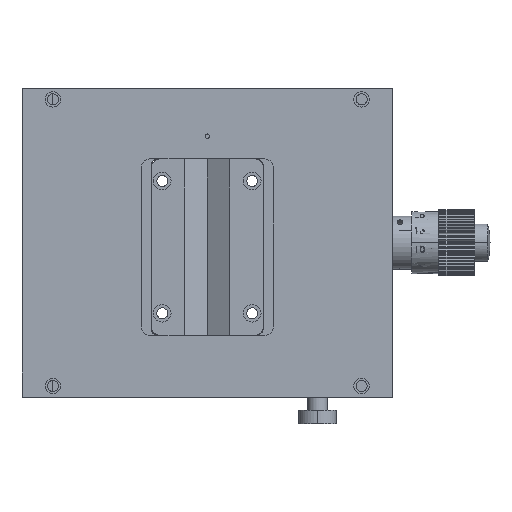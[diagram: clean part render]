
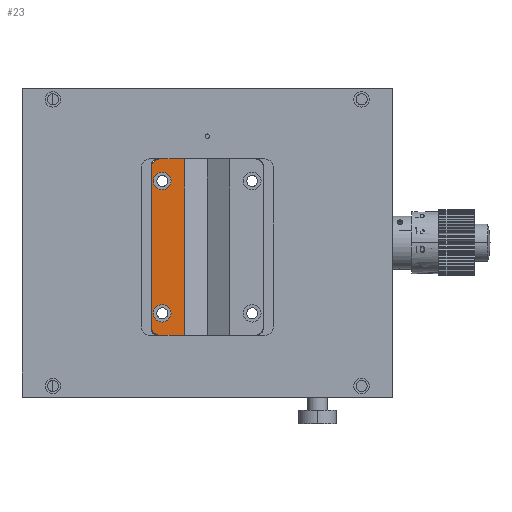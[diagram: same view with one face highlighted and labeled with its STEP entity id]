
A CAD part, top view. The second image highlights one B-rep face of the part: STEP entity #23.
In plain terms, the highlighted planar face has unit normal (0, 0, -1).
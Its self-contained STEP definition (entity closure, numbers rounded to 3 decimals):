
#23 = ADVANCED_FACE ( 'NONE', ( #5520, #79, #16394 ), #14322, .F. ) ;
#79 = FACE_BOUND ( 'NONE', #4531, .T. ) ;
#235 = VERTEX_POINT ( 'NONE', #17312 ) ;
#386 = VERTEX_POINT ( 'NONE', #2026 ) ;
#431 = CARTESIAN_POINT ( 'NONE',  ( -35.736, -3.566, 4.897 ) ) ;
#485 = CARTESIAN_POINT ( 'NONE',  ( -35.736, -21.566, 4.897 ) ) ;
#643 = VERTEX_POINT ( 'NONE', #13674 ) ;
#671 = EDGE_LOOP ( 'NONE', ( #19587, #18327, #16349, #6704, #4236, #12662 ) ) ;
#809 = CARTESIAN_POINT ( 'NONE',  ( -28.146, -3.566, 4.897 ) ) ;
#866 = EDGE_CURVE ( 'NONE', #12997, #22259, #21504, .T. ) ;
#912 = DIRECTION ( 'NONE',  ( 0., 0., 1. ) ) ;
#1293 = B_SPLINE_CURVE_WITH_KNOTS ( 'NONE', 3,
 ( #9673, #11417, #2749, #14896, #20178, #6223, #18364, #9826, #4830, #8586 ),
 .UNSPECIFIED., .F., .F.,
 ( 4, 2, 2, 2, 4 ),
 ( 0., 0.25, 0.5, 0.75, 1. ),
 .UNSPECIFIED. ) ;
#1451 = VERTEX_POINT ( 'NONE', #7422 ) ;
#1735 = DIRECTION ( 'NONE',  ( 0., 0., -1. ) ) ;
#1791 = VERTEX_POINT ( 'NONE', #1917 ) ;
#1895 = DIRECTION ( 'NONE',  ( 0., -1., 0. ) ) ;
#1917 = CARTESIAN_POINT ( 'NONE',  ( -33.736, -23.566, 4.897 ) ) ;
#2026 = CARTESIAN_POINT ( 'NONE',  ( -35.236, -18.566, 4.897 ) ) ;
#2300 = EDGE_CURVE ( 'NONE', #15637, #643, #16280, .T. ) ;
#2749 = CARTESIAN_POINT ( 'NONE',  ( -34.258, 16.382, 4.897 ) ) ;
#2790 = ORIENTED_EDGE ( 'NONE', *, *, #3807, .F. ) ;
#2858 = VECTOR ( 'NONE', #18047, 1000. ) ;
#3807 = EDGE_CURVE ( 'NONE', #11156, #386, #13466, .T. ) ;
#3957 = AXIS2_PLACEMENT_3D ( 'NONE', #10426, #1735, #8443 ) ;
#4236 = ORIENTED_EDGE ( 'NONE', *, *, #15317, .F. ) ;
#4256 = CARTESIAN_POINT ( 'NONE',  ( -33.736, 16.434, 4.897 ) ) ;
#4283 = CIRCLE ( 'NONE', #17915, 2. ) ;
#4442 = CARTESIAN_POINT ( 'NONE',  ( -35.736, 14.434, 4.897 ) ) ;
#4531 = EDGE_LOOP ( 'NONE', ( #2790, #4655 ) ) ;
#4655 = ORIENTED_EDGE ( 'NONE', *, *, #13999, .F. ) ;
#4830 = CARTESIAN_POINT ( 'NONE',  ( -35.736, 14.696, 4.897 ) ) ;
#4893 = EDGE_CURVE ( 'NONE', #5894, #235, #13406, .T. ) ;
#5106 = EDGE_CURVE ( 'NONE', #235, #1791, #20811, .T. ) ;
#5198 = CARTESIAN_POINT ( 'NONE',  ( -35.236, 11.434, 4.897 ) ) ;
#5520 = FACE_BOUND ( 'NONE', #5844, .T. ) ;
#5582 = CARTESIAN_POINT ( 'NONE',  ( -34.258, -23.515, 4.897 ) ) ;
#5746 = DIRECTION ( 'NONE',  ( -1., 0., 0. ) ) ;
#5844 = EDGE_LOOP ( 'NONE', ( #10611, #6156 ) ) ;
#5894 = VERTEX_POINT ( 'NONE', #4442 ) ;
#6156 = ORIENTED_EDGE ( 'NONE', *, *, #2300, .T. ) ;
#6223 = CARTESIAN_POINT ( 'NONE',  ( -35.337, 15.662, 4.897 ) ) ;
#6704 = ORIENTED_EDGE ( 'NONE', *, *, #866, .F. ) ;
#7351 = CARTESIAN_POINT ( 'NONE',  ( -33.736, -23.566, 4.897 ) ) ;
#7422 = CARTESIAN_POINT ( 'NONE',  ( -28.146, -23.566, 4.897 ) ) ;
#7748 = CARTESIAN_POINT ( 'NONE',  ( -31.941, -23.566, 4.897 ) ) ;
#8001 = DIRECTION ( 'NONE',  ( 0., 1., 0. ) ) ;
#8443 = DIRECTION ( 'NONE',  ( 1., 0., 0. ) ) ;
#8586 = CARTESIAN_POINT ( 'NONE',  ( -35.736, 14.434, 4.897 ) ) ;
#8904 = CARTESIAN_POINT ( 'NONE',  ( -33.236, 11.434, 4.897 ) ) ;
#8956 = CARTESIAN_POINT ( 'NONE',  ( -35.483, -22.575, 4.897 ) ) ;
#9629 = AXIS2_PLACEMENT_3D ( 'NONE', #21800, #912, #8001 ) ;
#9673 = CARTESIAN_POINT ( 'NONE',  ( -33.736, 16.434, 4.897 ) ) ;
#9826 = CARTESIAN_POINT ( 'NONE',  ( -35.685, 14.956, 4.897 ) ) ;
#10426 = CARTESIAN_POINT ( 'NONE',  ( -33.236, -18.566, 4.897 ) ) ;
#10611 = ORIENTED_EDGE ( 'NONE', *, *, #13439, .T. ) ;
#10662 = DIRECTION ( 'NONE',  ( 1., 0., 0. ) ) ;
#10951 = VECTOR ( 'NONE', #19873, 1000. ) ;
#10980 = VECTOR ( 'NONE', #1895, 1000. ) ;
#11156 = VERTEX_POINT ( 'NONE', #17012 ) ;
#11417 = CARTESIAN_POINT ( 'NONE',  ( -33.999, 16.434, 4.897 ) ) ;
#11533 = EDGE_CURVE ( 'NONE', #1791, #1451, #15551, .T. ) ;
#11814 = DIRECTION ( 'NONE',  ( 1., 0., 0. ) ) ;
#12516 = CARTESIAN_POINT ( 'NONE',  ( -35.736, -21.829, 4.897 ) ) ;
#12662 = ORIENTED_EDGE ( 'NONE', *, *, #11533, .F. ) ;
#12997 = VERTEX_POINT ( 'NONE', #20464 ) ;
#13406 = LINE ( 'NONE', #431, #10980 ) ;
#13439 = EDGE_CURVE ( 'NONE', #643, #15637, #4283, .T. ) ;
#13466 = CIRCLE ( 'NONE', #13806, 2. ) ;
#13674 = CARTESIAN_POINT ( 'NONE',  ( -31.236, 11.434, 4.897 ) ) ;
#13806 = AXIS2_PLACEMENT_3D ( 'NONE', #17759, #17689, #21105 ) ;
#13999 = EDGE_CURVE ( 'NONE', #386, #11156, #14082, .T. ) ;
#14082 = CIRCLE ( 'NONE', #3957, 2. ) ;
#14265 = CARTESIAN_POINT ( 'NONE',  ( -35.337, -22.794, 4.897 ) ) ;
#14322 = PLANE ( 'NONE',  #9629 ) ;
#14896 = CARTESIAN_POINT ( 'NONE',  ( -34.745, 16.181, 4.897 ) ) ;
#15317 = EDGE_CURVE ( 'NONE', #1451, #12997, #21578, .T. ) ;
#15551 = LINE ( 'NONE', #7748, #10951 ) ;
#15637 = VERTEX_POINT ( 'NONE', #5198 ) ;
#15850 = CARTESIAN_POINT ( 'NONE',  ( -35.685, -22.088, 4.897 ) ) ;
#16009 = CARTESIAN_POINT ( 'NONE',  ( -34.745, -23.313, 4.897 ) ) ;
#16280 = CIRCLE ( 'NONE', #20874, 2. ) ;
#16349 = ORIENTED_EDGE ( 'NONE', *, *, #20791, .F. ) ;
#16394 = FACE_OUTER_BOUND ( 'NONE', #671, .T. ) ;
#17012 = CARTESIAN_POINT ( 'NONE',  ( -31.236, -18.566, 4.897 ) ) ;
#17312 = CARTESIAN_POINT ( 'NONE',  ( -35.736, -21.566, 4.897 ) ) ;
#17689 = DIRECTION ( 'NONE',  ( 0., 0., -1. ) ) ;
#17743 = CARTESIAN_POINT ( 'NONE',  ( -33.998, -23.566, 4.897 ) ) ;
#17759 = CARTESIAN_POINT ( 'NONE',  ( -33.236, -18.566, 4.897 ) ) ;
#17915 = AXIS2_PLACEMENT_3D ( 'NONE', #22345, #18929, #11814 ) ;
#18047 = DIRECTION ( 'NONE',  ( 0., 1., 0. ) ) ;
#18118 = CARTESIAN_POINT ( 'NONE',  ( -31.941, 16.434, 4.897 ) ) ;
#18327 = ORIENTED_EDGE ( 'NONE', *, *, #4893, .F. ) ;
#18364 = CARTESIAN_POINT ( 'NONE',  ( -35.483, 15.443, 4.897 ) ) ;
#18929 = DIRECTION ( 'NONE',  ( 0., 0., 1. ) ) ;
#19402 = CARTESIAN_POINT ( 'NONE',  ( -34.964, -23.167, 4.897 ) ) ;
#19587 = ORIENTED_EDGE ( 'NONE', *, *, #5106, .F. ) ;
#19873 = DIRECTION ( 'NONE',  ( 1., 0., 0. ) ) ;
#20178 = CARTESIAN_POINT ( 'NONE',  ( -34.964, 16.034, 4.897 ) ) ;
#20464 = CARTESIAN_POINT ( 'NONE',  ( -28.146, 16.434, 4.897 ) ) ;
#20791 = EDGE_CURVE ( 'NONE', #22259, #5894, #1293, .T. ) ;
#20811 = B_SPLINE_CURVE_WITH_KNOTS ( 'NONE', 3,
 ( #485, #12516, #15850, #8956, #14265, #19402, #16009, #5582, #17743, #7351 ),
 .UNSPECIFIED., .F., .F.,
 ( 4, 2, 2, 2, 4 ),
 ( 0., 0.25, 0.5, 0.75, 1. ),
 .UNSPECIFIED. ) ;
#20874 = AXIS2_PLACEMENT_3D ( 'NONE', #8904, #21026, #10662 ) ;
#21026 = DIRECTION ( 'NONE',  ( 0., 0., 1. ) ) ;
#21105 = DIRECTION ( 'NONE',  ( 1., 0., 0. ) ) ;
#21504 = LINE ( 'NONE', #18118, #21777 ) ;
#21578 = LINE ( 'NONE', #809, #2858 ) ;
#21777 = VECTOR ( 'NONE', #5746, 1000. ) ;
#21800 = CARTESIAN_POINT ( 'NONE',  ( -28.146, -23.566, 4.897 ) ) ;
#22259 = VERTEX_POINT ( 'NONE', #4256 ) ;
#22345 = CARTESIAN_POINT ( 'NONE',  ( -33.236, 11.434, 4.897 ) ) ;
